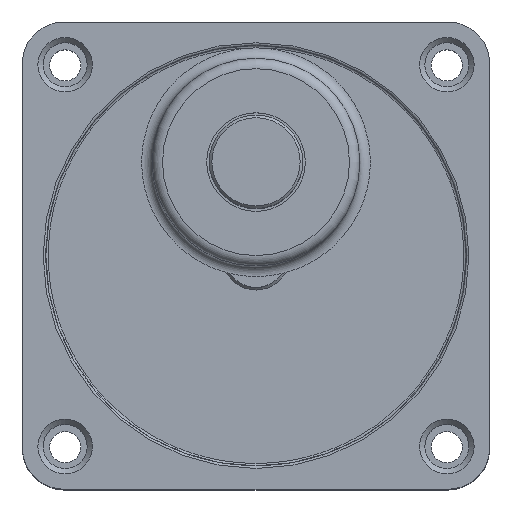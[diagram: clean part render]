
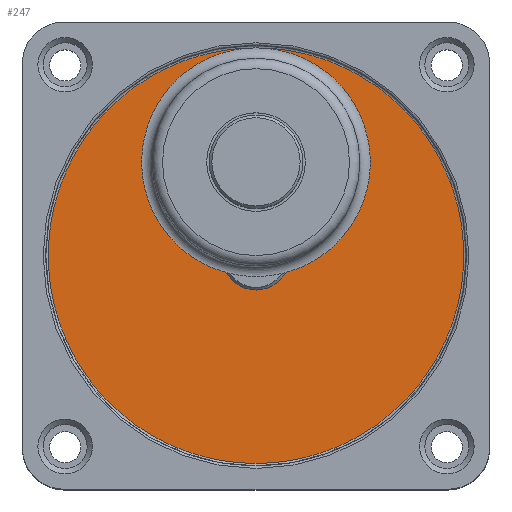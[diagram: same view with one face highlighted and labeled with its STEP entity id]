
A CAD part, top view. The second image highlights one B-rep face of the part: STEP entity #247.
In plain terms, the highlighted planar face has unit normal (0, 0, -1).
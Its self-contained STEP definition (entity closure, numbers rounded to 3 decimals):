
#196=CARTESIAN_POINT('',(-6.5,0.,3.5));
#197=VERTEX_POINT('',#196);
#198=CARTESIAN_POINT('',(0.0,0.0,3.5));
#199=DIRECTION('',(0.0,0.0,-1.0));
#200=DIRECTION('',(1.0,0.0,0.0));
#201=AXIS2_PLACEMENT_3D('',#198,#199,#200);
#202=CIRCLE('',#201,6.5);
#203=EDGE_CURVE('',#197,#197,#202,.T.);
#228=CARTESIAN_POINT('',(0.0,0.0,3.5));
#229=DIRECTION('',(0.0,0.0,1.0));
#230=DIRECTION('',(1.0,0.0,0.0));
#231=AXIS2_PLACEMENT_3D('',#228,#229,#230);
#232=PLANE('',#231);
#233=CARTESIAN_POINT('',(-41.5,0.,3.5));
#234=VERTEX_POINT('',#233);
#235=CARTESIAN_POINT('',(0.0,0.0,3.5));
#236=DIRECTION('',(0.0,0.0,-1.0));
#237=DIRECTION('',(1.0,0.0,0.0));
#238=AXIS2_PLACEMENT_3D('',#235,#236,#237);
#239=CIRCLE('',#238,41.5);
#240=EDGE_CURVE('',#234,#234,#239,.T.);
#241=ORIENTED_EDGE('',*,*,#240,.T.);
#242=EDGE_LOOP('',(#241));
#243=FACE_OUTER_BOUND('',#242,.T.);
#244=ORIENTED_EDGE('',*,*,#203,.F.);
#245=EDGE_LOOP('',(#244));
#246=FACE_BOUND('',#245,.T.);
#247=ADVANCED_FACE('',(#243,#246),#232,.F.);
